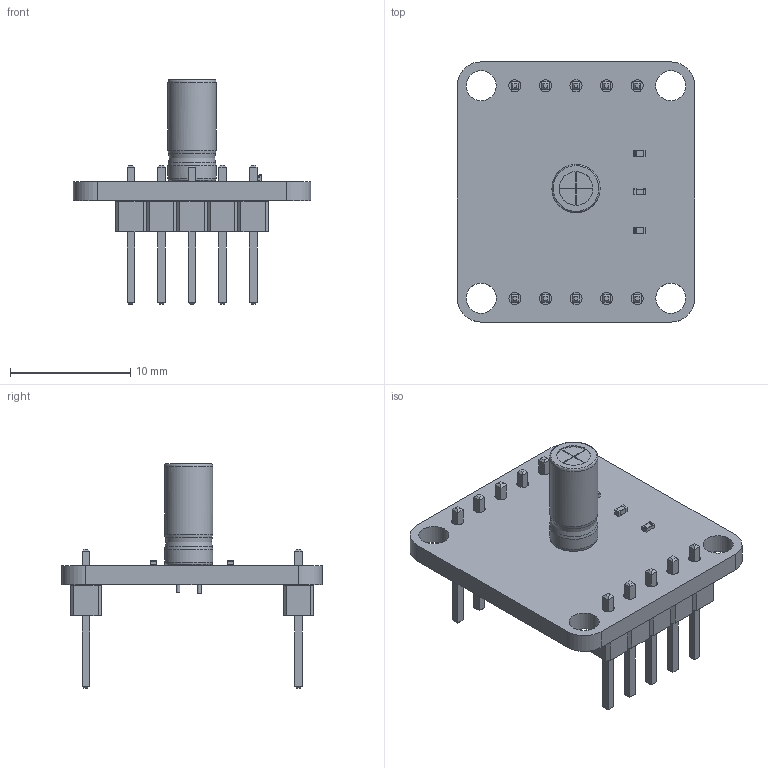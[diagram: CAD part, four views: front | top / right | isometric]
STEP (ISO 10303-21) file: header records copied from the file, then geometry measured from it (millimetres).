
FILE_DESCRIPTION(('KiCad electronic assembly'),'2;1');
FILE_NAME('STP_AXM0025.step','2024-11-12T16:42:42',('Pcbnew'),('Kicad'), 'Open CASCADE STEP processor 7.8','KiCad to STEP converter','Unknown' );
FILE_SCHEMA(('AUTOMOTIVE_DESIGN { 1 0 10303 214 1 1 1 1 }'));
Length unit declared in the file: millimetre
Products named in the file (10): STP_AXM0025 1; C_0402_1005Metric; R_0402_1005Metric; C_Radial_D8.0mm_H7.0mm_P3.50mm; C_Radial_D80mm_H70mm_P350mm; PinHeader_1x05_P2.54mm_Vertical; PinHeader_1x05_P254mm_Vertical; VibrationSwitch_PCB
Assembly tree (11 placements, depth 3):
  STP_AXM0025 1
    C_0402_1005Metric
      C_0402_1005Metric
    R_0402_1005Metric  x2
      R_0402_1005Metric
    C_Radial_D8.0mm_H7.0mm_P3.50mm
      C_Radial_D80mm_H70mm_P350mm
    PinHeader_1x05_P2.54mm_Vertical  x2
      PinHeader_1x05_P254mm_Vertical
    VibrationSwitch_PCB
Bounding box: 19.74 x 21.64 x 18.64 mm (x, y, z)
Volume: 932.5 mm3; surface area: 1694.4 mm2
Topology: 7 solids, 8 shells, 386 faces, 940 edges, 596 vertices
Faces by surface type: plane 306, cylinder 48, bspline 32
Full cylindrical faces by diameter (mm): 0.3 x1, 1 x11, 2.5 x4
Entity records: 8741 total; most frequent: CARTESIAN_POINT 1682, ORIENTED_EDGE 1152, DIRECTION 1020, EDGE_CURVE 576, LINE 428, VECTOR 428, VERTEX_POINT 368, AXIS2_PLACEMENT_3D 296
